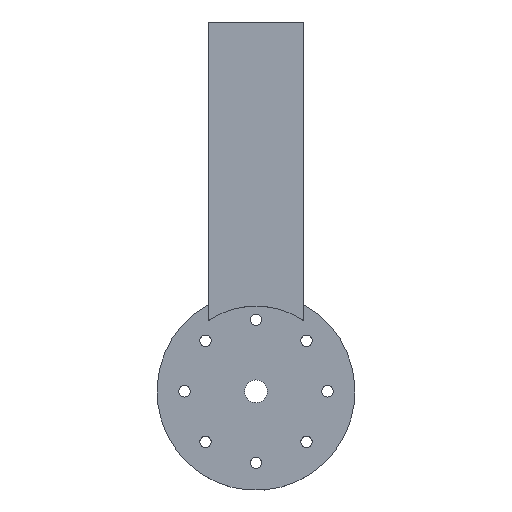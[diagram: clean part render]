
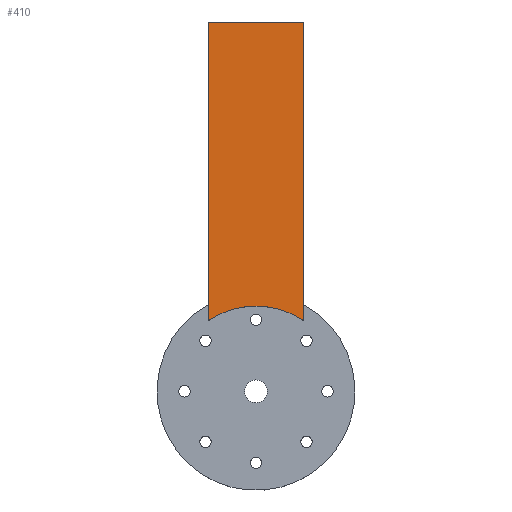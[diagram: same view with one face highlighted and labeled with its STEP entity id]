
A CAD part, top view. The second image highlights one B-rep face of the part: STEP entity #410.
In plain terms, the highlighted planar face has unit normal (0, 0, 1).
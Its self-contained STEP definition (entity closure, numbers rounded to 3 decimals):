
#72 = PLANE('',#73);
#73 = AXIS2_PLACEMENT_3D('',#74,#75,#76);
#74 = CARTESIAN_POINT('',(10.,0.,-200.));
#75 = DIRECTION('',(1.,0.,0.));
#76 = DIRECTION('',(0.,0.,1.));
#129 = PLANE('',#130);
#130 = AXIS2_PLACEMENT_3D('',#131,#132,#133);
#131 = CARTESIAN_POINT('',(-10.,0.,-200.));
#132 = DIRECTION('',(1.,0.,0.));
#133 = DIRECTION('',(0.,0.,1.));
#143 = EDGE_CURVE('',#144,#146,#148,.T.);
#144 = VERTEX_POINT('',#145);
#145 = CARTESIAN_POINT('',(-10.,14.823,-192.));
#146 = VERTEX_POINT('',#147);
#147 = CARTESIAN_POINT('',(-10.,77.408,-192.));
#148 = SURFACE_CURVE('',#149,(#153,#160),.PCURVE_S1.);
#149 = LINE('',#150,#151);
#150 = CARTESIAN_POINT('',(-10.,0.,-192.));
#151 = VECTOR('',#152,1.);
#152 = DIRECTION('',(0.,1.,0.));
#153 = PCURVE('',#129,#154);
#154 = DEFINITIONAL_REPRESENTATION('',(#155),#159);
#155 = LINE('',#156,#157);
#156 = CARTESIAN_POINT('',(8.,0.));
#157 = VECTOR('',#158,1.);
#158 = DIRECTION('',(0.,-1.));
#159 = ( GEOMETRIC_REPRESENTATION_CONTEXT(2) 
PARAMETRIC_REPRESENTATION_CONTEXT() REPRESENTATION_CONTEXT('2D SPACE',''
  ) );
#160 = PCURVE('',#161,#166);
#161 = PLANE('',#162);
#162 = AXIS2_PLACEMENT_3D('',#163,#164,#165);
#163 = CARTESIAN_POINT('',(-10.,0.,-192.));
#164 = DIRECTION('',(0.,0.,1.));
#165 = DIRECTION('',(1.,0.,0.));
#166 = DEFINITIONAL_REPRESENTATION('',(#167),#171);
#167 = LINE('',#168,#169);
#168 = CARTESIAN_POINT('',(0.,0.));
#169 = VECTOR('',#170,1.);
#170 = DIRECTION('',(0.,1.));
#171 = ( GEOMETRIC_REPRESENTATION_CONTEXT(2) 
PARAMETRIC_REPRESENTATION_CONTEXT() REPRESENTATION_CONTEXT('2D SPACE',''
  ) );
#188 = CYLINDRICAL_SURFACE('',#189,17.881);
#189 = AXIS2_PLACEMENT_3D('',#190,#191,#192);
#190 = CARTESIAN_POINT('',(0.,0.,-197.));
#191 = DIRECTION('',(0.,0.,1.));
#192 = DIRECTION('',(1.,0.,0.));
#257 = PLANE('',#258);
#258 = AXIS2_PLACEMENT_3D('',#259,#260,#261);
#259 = CARTESIAN_POINT('',(-10.,77.408,-200.));
#260 = DIRECTION('',(0.,1.,0.));
#261 = DIRECTION('',(0.,0.,1.));
#275 = VERTEX_POINT('',#276);
#276 = CARTESIAN_POINT('',(10.,14.823,-192.));
#318 = EDGE_CURVE('',#275,#144,#319,.T.);
#319 = SURFACE_CURVE('',#320,(#325,#332),.PCURVE_S1.);
#320 = CIRCLE('',#321,17.881);
#321 = AXIS2_PLACEMENT_3D('',#322,#323,#324);
#322 = CARTESIAN_POINT('',(0.,0.,-192.));
#323 = DIRECTION('',(0.,0.,1.));
#324 = DIRECTION('',(1.,0.,-0.));
#325 = PCURVE('',#188,#326);
#326 = DEFINITIONAL_REPRESENTATION('',(#327),#331);
#327 = LINE('',#328,#329);
#328 = CARTESIAN_POINT('',(0.,5.));
#329 = VECTOR('',#330,1.);
#330 = DIRECTION('',(1.,0.));
#331 = ( GEOMETRIC_REPRESENTATION_CONTEXT(2) 
PARAMETRIC_REPRESENTATION_CONTEXT() REPRESENTATION_CONTEXT('2D SPACE',''
  ) );
#332 = PCURVE('',#161,#333);
#333 = DEFINITIONAL_REPRESENTATION('',(#334),#338);
#334 = CIRCLE('',#335,17.881);
#335 = AXIS2_PLACEMENT_2D('',#336,#337);
#336 = CARTESIAN_POINT('',(10.,0.));
#337 = DIRECTION('',(1.,0.));
#338 = ( GEOMETRIC_REPRESENTATION_CONTEXT(2) 
PARAMETRIC_REPRESENTATION_CONTEXT() REPRESENTATION_CONTEXT('2D SPACE',''
  ) );
#367 = EDGE_CURVE('',#146,#368,#370,.T.);
#368 = VERTEX_POINT('',#369);
#369 = CARTESIAN_POINT('',(10.,77.408,-192.));
#370 = SURFACE_CURVE('',#371,(#375,#382),.PCURVE_S1.);
#371 = LINE('',#372,#373);
#372 = CARTESIAN_POINT('',(-10.,77.408,-192.));
#373 = VECTOR('',#374,1.);
#374 = DIRECTION('',(1.,0.,0.));
#375 = PCURVE('',#257,#376);
#376 = DEFINITIONAL_REPRESENTATION('',(#377),#381);
#377 = LINE('',#378,#379);
#378 = CARTESIAN_POINT('',(8.,0.));
#379 = VECTOR('',#380,1.);
#380 = DIRECTION('',(0.,1.));
#381 = ( GEOMETRIC_REPRESENTATION_CONTEXT(2) 
PARAMETRIC_REPRESENTATION_CONTEXT() REPRESENTATION_CONTEXT('2D SPACE',''
  ) );
#382 = PCURVE('',#161,#383);
#383 = DEFINITIONAL_REPRESENTATION('',(#384),#388);
#384 = LINE('',#385,#386);
#385 = CARTESIAN_POINT('',(0.,77.408));
#386 = VECTOR('',#387,1.);
#387 = DIRECTION('',(1.,0.));
#388 = ( GEOMETRIC_REPRESENTATION_CONTEXT(2) 
PARAMETRIC_REPRESENTATION_CONTEXT() REPRESENTATION_CONTEXT('2D SPACE',''
  ) );
#410 = ADVANCED_FACE('',(#411),#161,.T.);
#411 = FACE_BOUND('',#412,.T.);
#412 = EDGE_LOOP('',(#413,#414,#415,#416));
#413 = ORIENTED_EDGE('',*,*,#367,.F.);
#414 = ORIENTED_EDGE('',*,*,#143,.F.);
#415 = ORIENTED_EDGE('',*,*,#318,.F.);
#416 = ORIENTED_EDGE('',*,*,#417,.T.);
#417 = EDGE_CURVE('',#275,#368,#418,.T.);
#418 = SURFACE_CURVE('',#419,(#423,#430),.PCURVE_S1.);
#419 = LINE('',#420,#421);
#420 = CARTESIAN_POINT('',(10.,0.,-192.));
#421 = VECTOR('',#422,1.);
#422 = DIRECTION('',(0.,1.,0.));
#423 = PCURVE('',#161,#424);
#424 = DEFINITIONAL_REPRESENTATION('',(#425),#429);
#425 = LINE('',#426,#427);
#426 = CARTESIAN_POINT('',(20.,0.));
#427 = VECTOR('',#428,1.);
#428 = DIRECTION('',(0.,1.));
#429 = ( GEOMETRIC_REPRESENTATION_CONTEXT(2) 
PARAMETRIC_REPRESENTATION_CONTEXT() REPRESENTATION_CONTEXT('2D SPACE',''
  ) );
#430 = PCURVE('',#72,#431);
#431 = DEFINITIONAL_REPRESENTATION('',(#432),#436);
#432 = LINE('',#433,#434);
#433 = CARTESIAN_POINT('',(8.,0.));
#434 = VECTOR('',#435,1.);
#435 = DIRECTION('',(0.,-1.));
#436 = ( GEOMETRIC_REPRESENTATION_CONTEXT(2) 
PARAMETRIC_REPRESENTATION_CONTEXT() REPRESENTATION_CONTEXT('2D SPACE',''
  ) );
